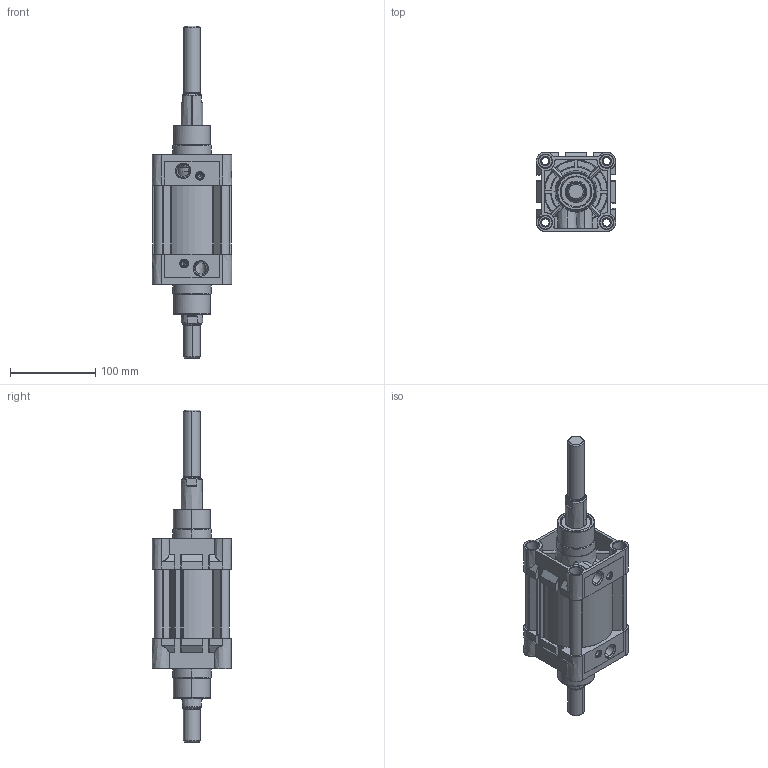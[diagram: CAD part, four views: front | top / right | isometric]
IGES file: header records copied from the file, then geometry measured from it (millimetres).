
Start section: SolidWorks IGES file using analytic representation for surfaces
Global section: file name: D:\ARICA 3D ÇÝZÝMLER\3D IGES\KDNT ÇÝFT MÝLLÝ STROK AYARLI\KDNT80 STROK AYARLI\KDNT80X25CIFTMILLI-STROK AYARLI-CYLINDER.IGS; native system: SolidWorks 2013; preprocessor: SolidWorks 2013; author: user; date: 150324.114934; units: millimetre
Bounding box: 93 x 93.3 x 390 mm (x, y, z)
Surface area: 298034.4 mm2 (no closed solid volume)
Topology: 0 solids, 0 shells, 1082 faces, 18453 edges, 18441 vertices
Faces by surface type: revolution 664, bspline 418
